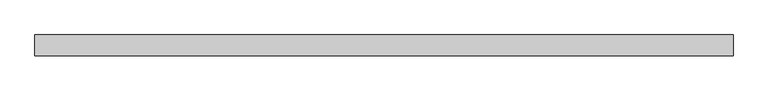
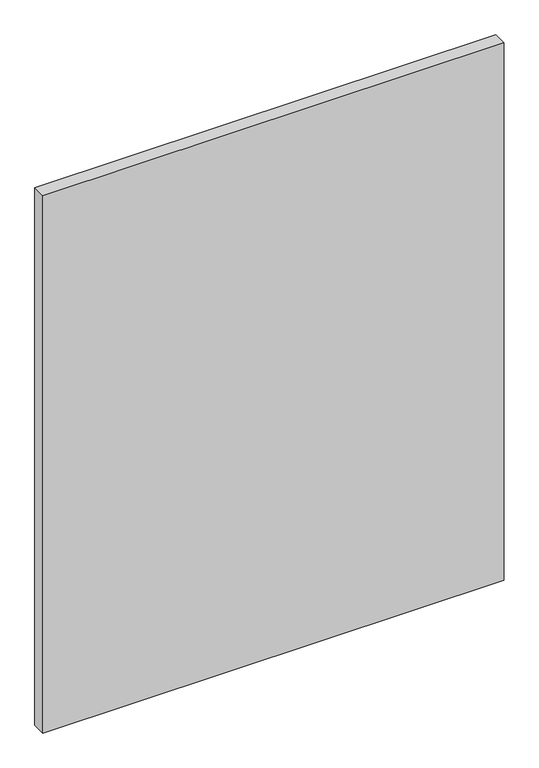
"""IFC4 building model written with IfcOpenShell, lengths in millimetres: plate geometry, Vitré."""

from ifc_helpers import new_model, si_unit, origin, origin_with_axes, place, context, project, spatial, polyline, outline, extrude, source, transform, mapped, element, save


def plate_46420262(model_context):
    return source(origin(), model_context, "Body", "SweptSolid", [
        extrude(outline(polyline([(-670.0, -20.0), (-670.0, 20.0), (670.0, 20.0), (670.0, -20.0), (-670.0, -20.0)])), origin_with_axes(), (0.0, 0.0, 1.0), 1650.0),
    ])


if __name__ == "__main__":
    model = new_model("IFC4")
    model_context = context("Model", 3, world=origin())
    ifc_project = project(units=[si_unit("LENGTHUNIT", "METRE", prefix="MILLI")], contexts=[model_context])
    site = spatial("IfcSite", under=ifc_project)
    building = spatial("IfcBuilding", under=site)
    placement = place(None, origin())
    plate_shape = plate_46420262(model_context)
    element("IfcPlate", 1, ObjectType="Vitré", at=placement, inside=building, context=model_context, shape_type="MappedRepresentation", body=[
        mapped(plate_shape, transform((0.0, 0.0, 0.0), x_axis=(1.0, 0.0, 0.0), y_axis=(0.0, 1.0, 0.0), z_axis=(0.0, 0.0, 1.0))),
    ])
    save(model, "model.ifc")
